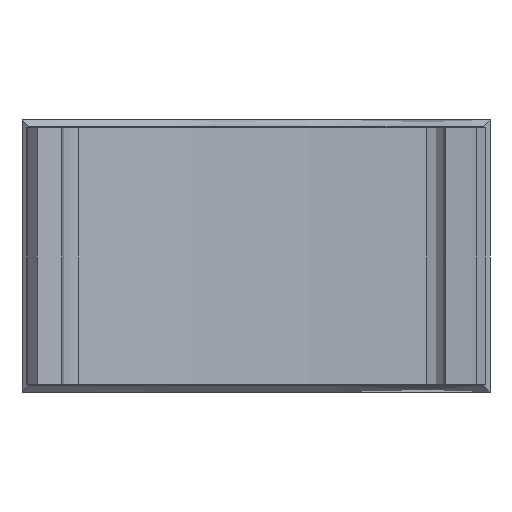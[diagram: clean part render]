
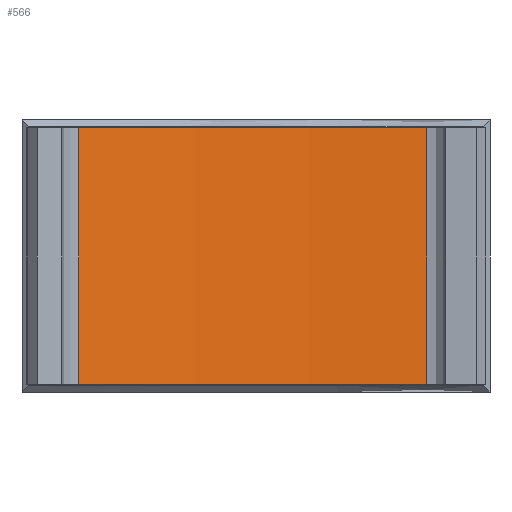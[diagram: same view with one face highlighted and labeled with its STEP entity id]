
A CAD part, front view. The second image highlights one B-rep face of the part: STEP entity #566.
In plain terms, the highlighted cylindrical face has radius 108.497 mm (diameter 216.993 mm), a partial arc.
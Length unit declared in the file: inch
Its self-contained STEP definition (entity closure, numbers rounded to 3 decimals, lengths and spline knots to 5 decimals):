
#17=CYLINDRICAL_SURFACE('',#614,4.27152);
#22=CIRCLE('',#611,4.27152);
#25=CIRCLE('',#615,4.27152);
#51=FACE_OUTER_BOUND('',#84,.T.);
#84=EDGE_LOOP('',(#406,#407,#408,#409));
#181=LINE('',#968,#205);
#182=LINE('',#969,#206);
#205=VECTOR('',#662,0.3937);
#206=VECTOR('',#663,0.3937);
#234=VERTEX_POINT('',#911);
#235=VERTEX_POINT('',#913);
#243=VERTEX_POINT('',#965);
#244=VERTEX_POINT('',#966);
#298=EDGE_CURVE('',#234,#235,#22,.T.);
#308=EDGE_CURVE('',#243,#244,#25,.T.);
#309=EDGE_CURVE('',#235,#243,#181,.T.);
#310=EDGE_CURVE('',#244,#234,#182,.T.);
#406=ORIENTED_EDGE('',*,*,#308,.F.);
#407=ORIENTED_EDGE('',*,*,#309,.F.);
#408=ORIENTED_EDGE('',*,*,#298,.F.);
#409=ORIENTED_EDGE('',*,*,#310,.F.);
#566=ADVANCED_FACE('',(#51),#17,.F.);
#611=AXIS2_PLACEMENT_3D('',#914,#649,#650);
#614=AXIS2_PLACEMENT_3D('',#964,#658,#659);
#615=AXIS2_PLACEMENT_3D('',#967,#660,#661);
#649=DIRECTION('center_axis',(0.,0.,-1.));
#650=DIRECTION('ref_axis',(-0.303,0.953,0.));
#658=DIRECTION('center_axis',(0.,0.,1.));
#659=DIRECTION('ref_axis',(-0.303,0.953,0.));
#660=DIRECTION('center_axis',(0.,0.,1.));
#661=DIRECTION('ref_axis',(-0.303,0.953,0.));
#662=DIRECTION('',(0.,0.,-1.));
#663=DIRECTION('',(0.,0.,1.));
#911=CARTESIAN_POINT('',(-1.20313,3.7777,0.94432));
#913=CARTESIAN_POINT('',(-0.19162,3.96866,0.94432));
#914=CARTESIAN_POINT('Origin',(0.08925,-0.29362,0.94432));
#964=CARTESIAN_POINT('Origin',(0.08925,-0.29362,0.19932));
#965=CARTESIAN_POINT('',(-0.19162,3.96866,0.19932));
#966=CARTESIAN_POINT('',(-1.20313,3.7777,0.19932));
#967=CARTESIAN_POINT('Origin',(0.08925,-0.29362,0.19932));
#968=CARTESIAN_POINT('',(-0.19162,3.96866,0.19932));
#969=CARTESIAN_POINT('',(-1.20313,3.7777,0.19932));
